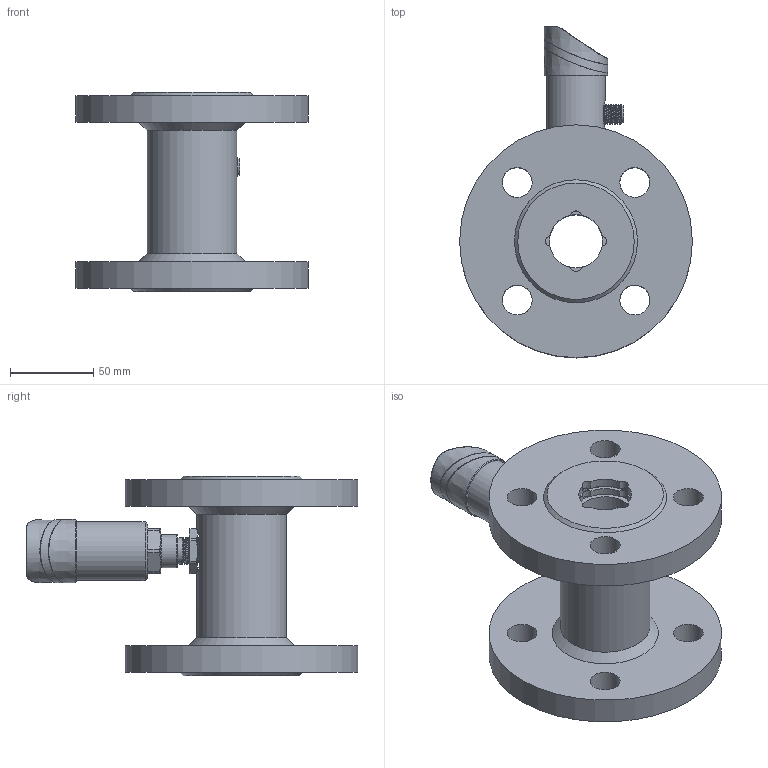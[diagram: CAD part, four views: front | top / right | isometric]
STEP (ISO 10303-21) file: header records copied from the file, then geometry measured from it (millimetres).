
FILE_DESCRIPTION( (''), '2;1');
FILE_NAME( 'QTKE_DN32_flange.step', '2024-10-14T14:57:28+08:00', (''), (''), '', '', '');
FILE_SCHEMA (('AUTOMOTIVE_DESIGN { 1 0 10303 214 3 1 1 1 }'));
Length unit declared in the file: millimetre
Products named in the file (1): QTKE DN32_flange
Bounding box: 140 x 199.5 x 120 mm (x, y, z)
Volume: 636922 mm3; surface area: 127716.8 mm2
Topology: 5 solids, 6 shells, 777 faces, 2018 edges, 1318 vertices
Faces by surface type: plane 287, cylinder 173, extrusion 141, cone 75, bspline 58, torus 32, sphere 11
Full cylindrical faces by diameter (mm): 1.689 x1, 2.7 x3, 12 x1, 15.9 x1, 16.5 x2, 18 x8, 20 x1, 23 x3, 26 x5, 32 x1, 35.5 x1, 36.5 x2, 37.001 x1, 38 x2, 54 x1, 140 x2
Entity records: 34261 total; most frequent: CARTESIAN_POINT 14919, ORIENTED_EDGE 3808, DIRECTION 3171, EDGE_CURVE 1904, VERTEX_POINT 1274, AXIS2_PLACEMENT_3D 1094, VECTOR 983, EDGE_LOOP 934
